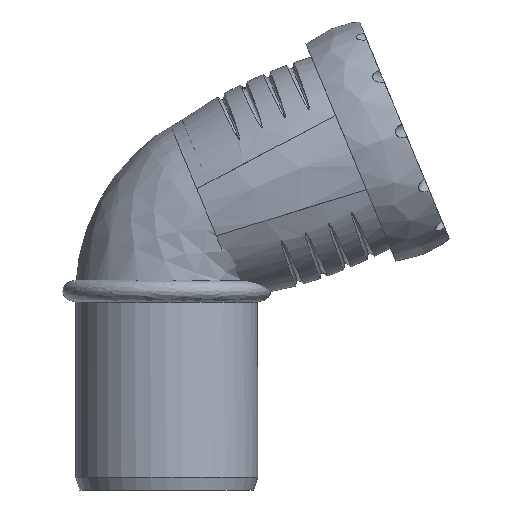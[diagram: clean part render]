
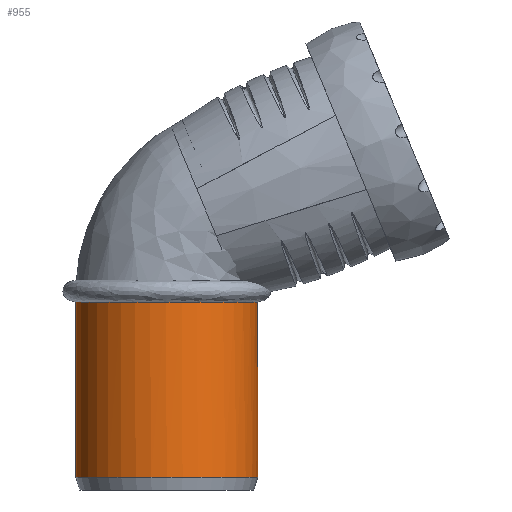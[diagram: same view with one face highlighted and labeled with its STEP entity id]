
A CAD part, front view. The second image highlights one B-rep face of the part: STEP entity #955.
In plain terms, the highlighted cylindrical face has radius 25.075 mm (diameter 50.15 mm), a full revolution.
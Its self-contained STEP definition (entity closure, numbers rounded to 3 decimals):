
#51=CYLINDRICAL_SURFACE('',#1043,25.075);
#101=FACE_BOUND('',#227,.T.);
#152=FACE_OUTER_BOUND('',#226,.T.);
#226=EDGE_LOOP('',(#810,#811,#812,#813));
#227=EDGE_LOOP('',(#814));
#267=CIRCLE('',#1038,25.075);
#270=CIRCLE('',#1044,25.075);
#271=CIRCLE('',#1045,25.075);
#272=CIRCLE('',#1046,25.075);
#273=CIRCLE('',#1047,25.075);
#436=VERTEX_POINT('',#4183);
#437=VERTEX_POINT('',#4200);
#439=VERTEX_POINT('',#4224);
#440=VERTEX_POINT('',#4226);
#441=VERTEX_POINT('',#4229);
#564=EDGE_CURVE('',#436,#437,#267,.T.);
#567=EDGE_CURVE('',#439,#436,#270,.T.);
#568=EDGE_CURVE('',#437,#440,#271,.T.);
#569=EDGE_CURVE('',#440,#439,#272,.T.);
#570=EDGE_CURVE('',#441,#441,#273,.T.);
#810=ORIENTED_EDGE('',*,*,#567,.T.);
#811=ORIENTED_EDGE('',*,*,#564,.T.);
#812=ORIENTED_EDGE('',*,*,#568,.T.);
#813=ORIENTED_EDGE('',*,*,#569,.T.);
#814=ORIENTED_EDGE('',*,*,#570,.F.);
#955=ADVANCED_FACE('',(#152,#101),#51,.T.);
#1038=AXIS2_PLACEMENT_3D('',#4217,#1202,#1203);
#1043=AXIS2_PLACEMENT_3D('',#4223,#1212,#1213);
#1044=AXIS2_PLACEMENT_3D('',#4225,#1214,#1215);
#1045=AXIS2_PLACEMENT_3D('',#4227,#1216,#1217);
#1046=AXIS2_PLACEMENT_3D('',#4228,#1218,#1219);
#1047=AXIS2_PLACEMENT_3D('',#4230,#1220,#1221);
#1202=DIRECTION('center_axis',(0.,0.,-1.));
#1203=DIRECTION('ref_axis',(1.,0.,0.));
#1212=DIRECTION('center_axis',(0.,0.,-1.));
#1213=DIRECTION('ref_axis',(0.,1.,0.));
#1214=DIRECTION('center_axis',(0.,0.,-1.));
#1215=DIRECTION('ref_axis',(1.,0.,0.));
#1216=DIRECTION('center_axis',(0.,0.,-1.));
#1217=DIRECTION('ref_axis',(1.,0.,0.));
#1218=DIRECTION('center_axis',(0.,0.,-1.));
#1219=DIRECTION('ref_axis',(1.,0.,0.));
#1220=DIRECTION('center_axis',(0.,0.,-1.));
#1221=DIRECTION('ref_axis',(1.,0.,0.));
#4183=CARTESIAN_POINT('',(8.276,23.67,51.8));
#4200=CARTESIAN_POINT('',(8.276,-23.67,51.8));
#4217=CARTESIAN_POINT('Origin',(0.,0.,51.8));
#4223=CARTESIAN_POINT('Origin',(0.,0.,27.65));
#4224=CARTESIAN_POINT('',(0.,25.075,51.8));
#4225=CARTESIAN_POINT('Origin',(0.,0.,51.8));
#4226=CARTESIAN_POINT('',(-25.075,0.,51.8));
#4227=CARTESIAN_POINT('Origin',(0.,0.,51.8));
#4228=CARTESIAN_POINT('Origin',(0.,0.,51.8));
#4229=CARTESIAN_POINT('',(0.,25.075,3.5));
#4230=CARTESIAN_POINT('Origin',(0.,0.,3.5));
